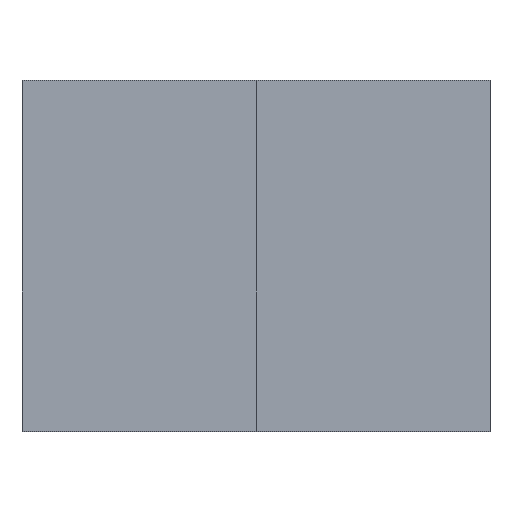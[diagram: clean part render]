
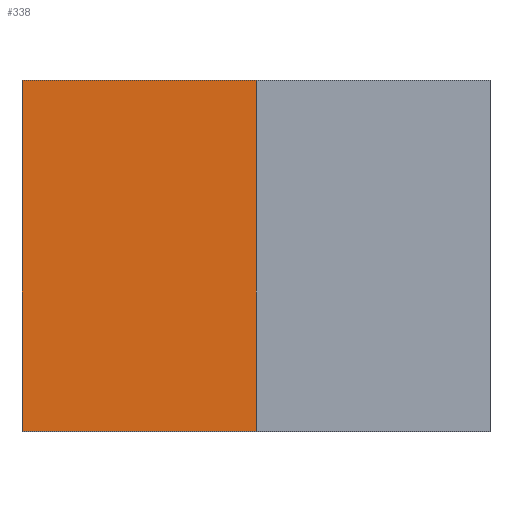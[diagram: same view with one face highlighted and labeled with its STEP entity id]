
A CAD part, top view. The second image highlights one B-rep face of the part: STEP entity #338.
In plain terms, the highlighted planar face has unit normal (0, 0, 1).
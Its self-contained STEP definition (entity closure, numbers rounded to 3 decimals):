
#24 = VERTEX_POINT('',#25);
#25 = CARTESIAN_POINT('',(0.,0.,10.));
#32 = PLANE('',#33);
#33 = AXIS2_PLACEMENT_3D('',#34,#35,#36);
#34 = CARTESIAN_POINT('',(0.,0.,0.));
#35 = DIRECTION('',(1.,0.,-0.));
#36 = DIRECTION('',(0.,0.,1.));
#44 = PLANE('',#45);
#45 = AXIS2_PLACEMENT_3D('',#46,#47,#48);
#46 = CARTESIAN_POINT('',(0.,0.,0.));
#47 = DIRECTION('',(-0.,1.,0.));
#48 = DIRECTION('',(0.,0.,1.));
#85 = VERTEX_POINT('',#86);
#86 = CARTESIAN_POINT('',(0.,30.,10.));
#100 = PLANE('',#101);
#101 = AXIS2_PLACEMENT_3D('',#102,#103,#104);
#102 = CARTESIAN_POINT('',(0.,30.,0.));
#103 = DIRECTION('',(-0.,1.,0.));
#104 = DIRECTION('',(0.,0.,1.));
#112 = EDGE_CURVE('',#24,#85,#113,.T.);
#113 = SURFACE_CURVE('',#114,(#118,#125),.PCURVE_S1.);
#114 = LINE('',#115,#116);
#115 = CARTESIAN_POINT('',(0.,0.,10.));
#116 = VECTOR('',#117,1.);
#117 = DIRECTION('',(-0.,1.,0.));
#118 = PCURVE('',#32,#119);
#119 = DEFINITIONAL_REPRESENTATION('',(#120),#124);
#120 = LINE('',#121,#122);
#121 = CARTESIAN_POINT('',(10.,0.));
#122 = VECTOR('',#123,1.);
#123 = DIRECTION('',(0.,-1.));
#124 = ( GEOMETRIC_REPRESENTATION_CONTEXT(2) 
PARAMETRIC_REPRESENTATION_CONTEXT() REPRESENTATION_CONTEXT('2D SPACE',''
  ) );
#125 = PCURVE('',#126,#131);
#126 = PLANE('',#127);
#127 = AXIS2_PLACEMENT_3D('',#128,#129,#130);
#128 = CARTESIAN_POINT('',(0.,0.,10.));
#129 = DIRECTION('',(0.,0.,1.));
#130 = DIRECTION('',(1.,0.,-0.));
#131 = DEFINITIONAL_REPRESENTATION('',(#132),#136);
#132 = LINE('',#133,#134);
#133 = CARTESIAN_POINT('',(0.,0.));
#134 = VECTOR('',#135,1.);
#135 = DIRECTION('',(0.,1.));
#136 = ( GEOMETRIC_REPRESENTATION_CONTEXT(2) 
PARAMETRIC_REPRESENTATION_CONTEXT() REPRESENTATION_CONTEXT('2D SPACE',''
  ) );
#144 = VERTEX_POINT('',#145);
#145 = CARTESIAN_POINT('',(20.,0.,10.));
#152 = PLANE('',#153);
#153 = AXIS2_PLACEMENT_3D('',#154,#155,#156);
#154 = CARTESIAN_POINT('',(20.,0.,0.));
#155 = DIRECTION('',(1.,0.,-0.));
#156 = DIRECTION('',(0.,0.,1.));
#195 = VERTEX_POINT('',#196);
#196 = CARTESIAN_POINT('',(20.,30.,10.));
#217 = EDGE_CURVE('',#144,#195,#218,.T.);
#218 = SURFACE_CURVE('',#219,(#223,#230),.PCURVE_S1.);
#219 = LINE('',#220,#221);
#220 = CARTESIAN_POINT('',(20.,0.,10.));
#221 = VECTOR('',#222,1.);
#222 = DIRECTION('',(-0.,1.,0.));
#223 = PCURVE('',#152,#224);
#224 = DEFINITIONAL_REPRESENTATION('',(#225),#229);
#225 = LINE('',#226,#227);
#226 = CARTESIAN_POINT('',(10.,0.));
#227 = VECTOR('',#228,1.);
#228 = DIRECTION('',(0.,-1.));
#229 = ( GEOMETRIC_REPRESENTATION_CONTEXT(2) 
PARAMETRIC_REPRESENTATION_CONTEXT() REPRESENTATION_CONTEXT('2D SPACE',''
  ) );
#230 = PCURVE('',#126,#231);
#231 = DEFINITIONAL_REPRESENTATION('',(#232),#236);
#232 = LINE('',#233,#234);
#233 = CARTESIAN_POINT('',(20.,0.));
#234 = VECTOR('',#235,1.);
#235 = DIRECTION('',(0.,1.));
#236 = ( GEOMETRIC_REPRESENTATION_CONTEXT(2) 
PARAMETRIC_REPRESENTATION_CONTEXT() REPRESENTATION_CONTEXT('2D SPACE',''
  ) );
#263 = EDGE_CURVE('',#24,#144,#264,.T.);
#264 = SURFACE_CURVE('',#265,(#269,#276),.PCURVE_S1.);
#265 = LINE('',#266,#267);
#266 = CARTESIAN_POINT('',(0.,0.,10.));
#267 = VECTOR('',#268,1.);
#268 = DIRECTION('',(1.,0.,-0.));
#269 = PCURVE('',#44,#270);
#270 = DEFINITIONAL_REPRESENTATION('',(#271),#275);
#271 = LINE('',#272,#273);
#272 = CARTESIAN_POINT('',(10.,0.));
#273 = VECTOR('',#274,1.);
#274 = DIRECTION('',(0.,1.));
#275 = ( GEOMETRIC_REPRESENTATION_CONTEXT(2) 
PARAMETRIC_REPRESENTATION_CONTEXT() REPRESENTATION_CONTEXT('2D SPACE',''
  ) );
#276 = PCURVE('',#126,#277);
#277 = DEFINITIONAL_REPRESENTATION('',(#278),#282);
#278 = LINE('',#279,#280);
#279 = CARTESIAN_POINT('',(0.,0.));
#280 = VECTOR('',#281,1.);
#281 = DIRECTION('',(1.,0.));
#282 = ( GEOMETRIC_REPRESENTATION_CONTEXT(2) 
PARAMETRIC_REPRESENTATION_CONTEXT() REPRESENTATION_CONTEXT('2D SPACE',''
  ) );
#310 = EDGE_CURVE('',#85,#195,#311,.T.);
#311 = SURFACE_CURVE('',#312,(#316,#323),.PCURVE_S1.);
#312 = LINE('',#313,#314);
#313 = CARTESIAN_POINT('',(0.,30.,10.));
#314 = VECTOR('',#315,1.);
#315 = DIRECTION('',(1.,0.,-0.));
#316 = PCURVE('',#100,#317);
#317 = DEFINITIONAL_REPRESENTATION('',(#318),#322);
#318 = LINE('',#319,#320);
#319 = CARTESIAN_POINT('',(10.,0.));
#320 = VECTOR('',#321,1.);
#321 = DIRECTION('',(0.,1.));
#322 = ( GEOMETRIC_REPRESENTATION_CONTEXT(2) 
PARAMETRIC_REPRESENTATION_CONTEXT() REPRESENTATION_CONTEXT('2D SPACE',''
  ) );
#323 = PCURVE('',#126,#324);
#324 = DEFINITIONAL_REPRESENTATION('',(#325),#329);
#325 = LINE('',#326,#327);
#326 = CARTESIAN_POINT('',(0.,30.));
#327 = VECTOR('',#328,1.);
#328 = DIRECTION('',(1.,0.));
#329 = ( GEOMETRIC_REPRESENTATION_CONTEXT(2) 
PARAMETRIC_REPRESENTATION_CONTEXT() REPRESENTATION_CONTEXT('2D SPACE',''
  ) );
#338 = ADVANCED_FACE('',(#339),#126,.T.);
#339 = FACE_BOUND('',#340,.T.);
#340 = EDGE_LOOP('',(#341,#342,#343,#344));
#341 = ORIENTED_EDGE('',*,*,#112,.F.);
#342 = ORIENTED_EDGE('',*,*,#263,.T.);
#343 = ORIENTED_EDGE('',*,*,#217,.T.);
#344 = ORIENTED_EDGE('',*,*,#310,.F.);
